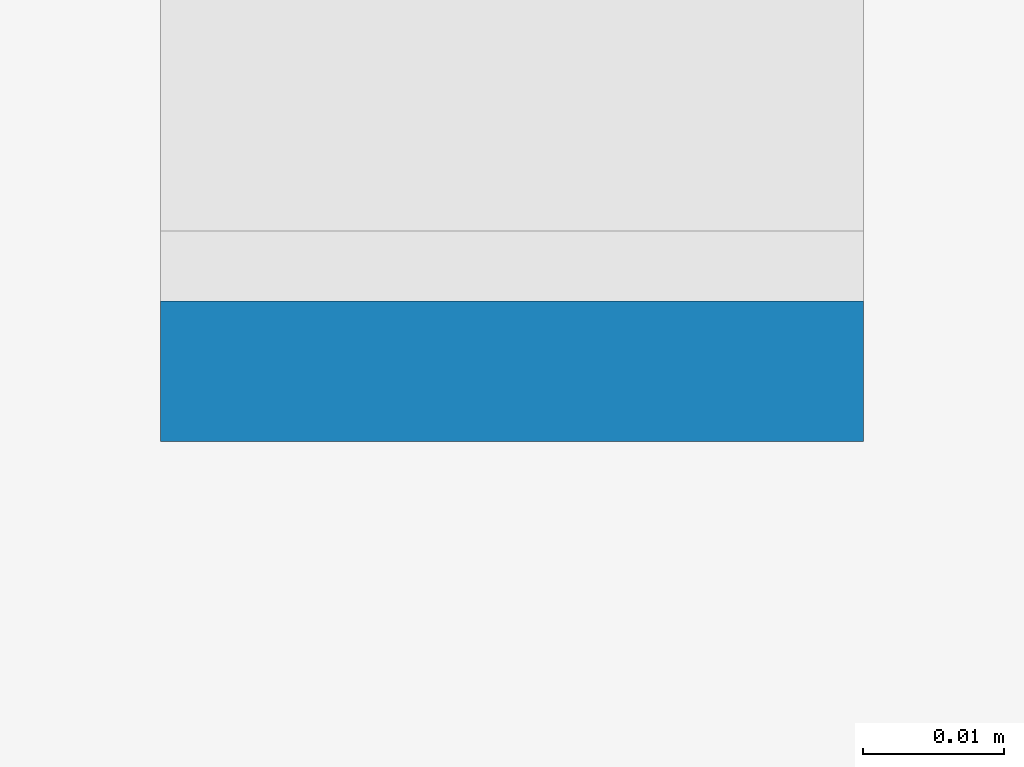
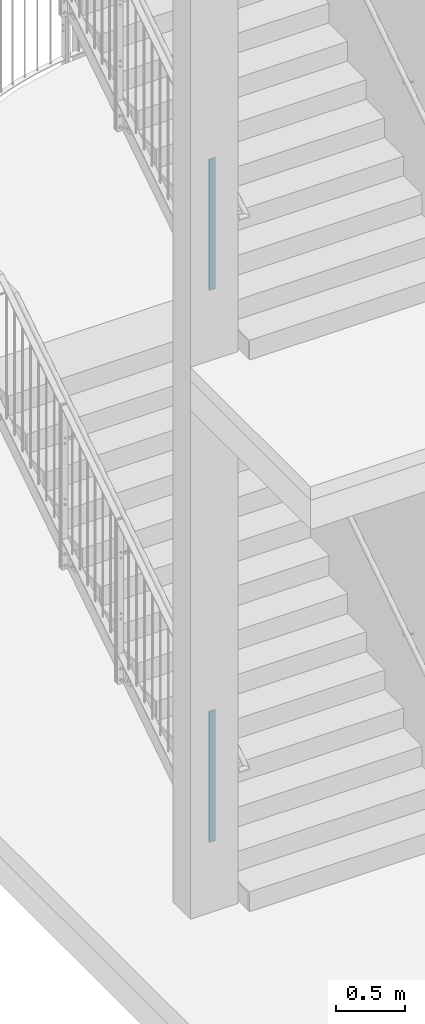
# One storey, part 7 of 296: 2 columns.
"""IFC2X3 building model written with IfcOpenShell, lengths in millimetres."""

from ifc_helpers import new_model, entity, si_unit, converted_unit, frame, origin, origin_with_axes, origin_2d, place, context, project, spatial, rectangle, extrude, clip, halfspace, material, element, save


model = new_model("IFC2X3")

# Units and contexts
model_context = context("Model", 3, precision=1e-09, world=origin_with_axes())
ifc_project = project(units=[si_unit("LENGTHUNIT", "METRE", prefix="MILLI"), si_unit("AREAUNIT", "SQUARE_METRE"), si_unit("VOLUMEUNIT", "CUBIC_METRE"), converted_unit("PLANEANGLEUNIT", "DEGREE", entity("IfcPlaneAngleMeasure", 0.01745329), si_unit("PLANEANGLEUNIT", "RADIAN"), dimensions=[0, 0, 0, 0, 0, 0, 0])], contexts=[model_context])

# Site, building, storey
site_placement = place(None, origin_with_axes())
site = spatial("IfcSite", under=ifc_project, at=site_placement, Name="TZD-S?d | Treppenhausgel?nder", CompositionType="ELEMENT")
building_placement = place(site_placement, origin_with_axes())
building = spatial("IfcBuilding", under=site, at=building_placement, Name="Struktur 1", CompositionType="ELEMENT")
storey_placement = place(building_placement, origin_with_axes())
storey = spatial("IfcBuildingStorey", under=building, at=storey_placement, Name="Default Storey", CompositionType="ELEMENT", Elevation=0.0)

# Columns
ifc_material = material(Name="S235JR")
column_1_placement = place(None, frame((-45.0, -3730.0, 353.339281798), z_axis=(0.0, 0.0, 1.0), x_axis=(0.0, 1.0, 0.0)))
element("IfcColumn", 1, at=column_1_placement, inside=storey, material=ifc_material, Name="-", ObjectType="-", context=model_context, shape_type="Clipping", body=[
    clip(clip(extrude(rectangle(XDim=10.0, YDim=50.0, at=origin_2d()), origin(), (0.0, 0.0, 1.0), 1224.768369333), halfspace(frame((3529.822276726, -45.0, -721.821367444), z_axis=(-0.477358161, 0.0, -0.878708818), x_axis=(0.0, -1.0, 0.0)), True)), halfspace(frame((2448.421919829, -45.0, 1622.079974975), z_axis=(-0.544258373, 0.0, 0.83891765), x_axis=(0.0, -1.0, 0.0)), True)),
])
column_2_placement = place(None, frame((-45.0, -3730.0, 5254.490358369), z_axis=(0.0, 0.0, 1.0), x_axis=(0.0, 1.0, 0.0)))
element("IfcColumn", 2, at=column_2_placement, inside=storey, material=ifc_material, Name="-", ObjectType="-", context=model_context, shape_type="Clipping", body=[
    clip(clip(extrude(rectangle(XDim=10.0, YDim=50.0, at=origin_2d()), origin(), (0.0, 0.0, 1.0), 1224.750360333), halfspace(frame((224.412619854, -45.0, 178.372948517), z_axis=(-0.542183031, 0.0, 0.840260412), x_axis=(0.0, -1.0, 0.0)), True)), halfspace(frame((5586.097642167, -45.0, -1847.877067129), z_axis=(-0.478443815, 0.0, -0.878118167), x_axis=(0.0, -1.0, 0.0)), True)),
])

save(model, "model.ifc")
